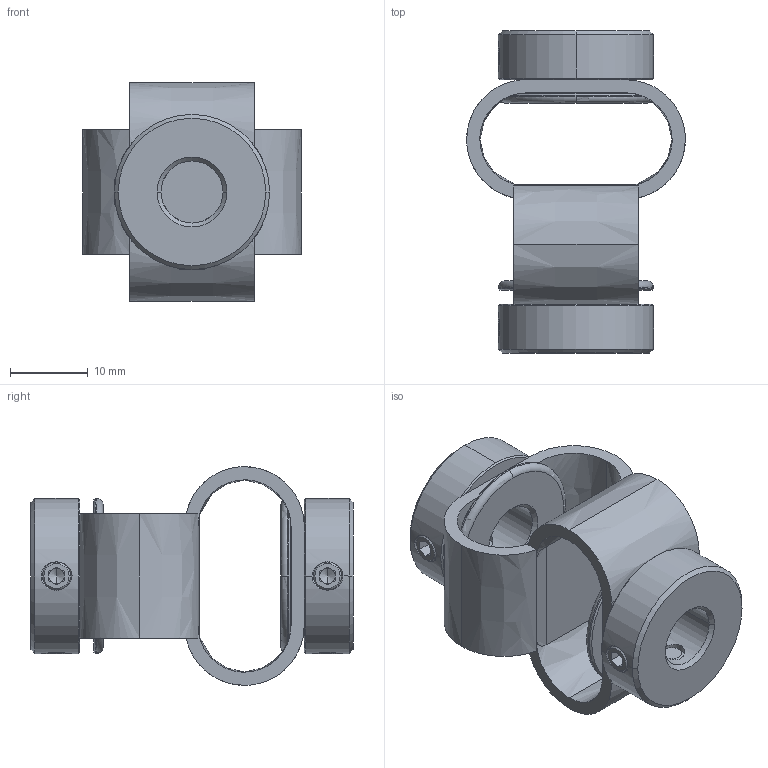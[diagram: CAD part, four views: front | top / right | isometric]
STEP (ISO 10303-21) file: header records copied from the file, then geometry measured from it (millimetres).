
FILE_DESCRIPTION (( 'STEP AP203' ), '1' );
FILE_NAME ('LS-D-D27L40-8-8.STEP', '2021-10-28T06:38:44', ( '' ), ( '' ), 'SwSTEP 2.0', 'SolidWorks 2018', '' );
FILE_SCHEMA (( 'CONFIG_CONTROL_DESIGN' ));
Length unit declared in the file: millimetre
Products named in the file (1): LS-D-D27L40-8-8
Bounding box: 28.2 x 41.54 x 28.2 mm (x, y, z)
Volume: 6931.4 mm3; surface area: 6673.5 mm2
Topology: 1 solids, 1 shells, 190 faces, 490 edges, 306 vertices
Faces by surface type: plane 86, cone 54, cylinder 30, bspline 16, torus 4
Entity records: 7783 total; most frequent: CARTESIAN_POINT 3225, ORIENTED_EDGE 964, DIRECTION 886, EDGE_CURVE 482, AXIS2_PLACEMENT_3D 345, VERTEX_POINT 306, EDGE_LOOP 218, VECTOR 196
